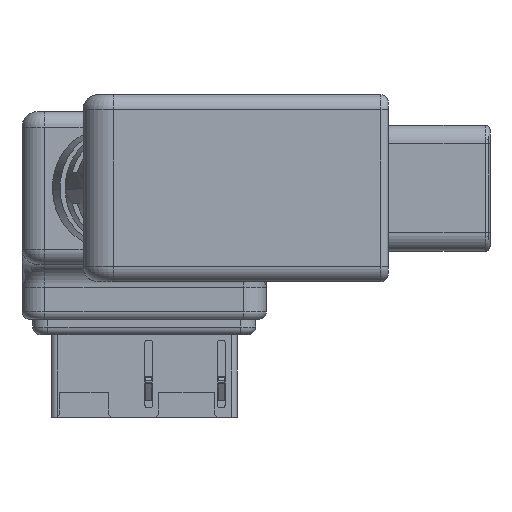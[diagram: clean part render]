
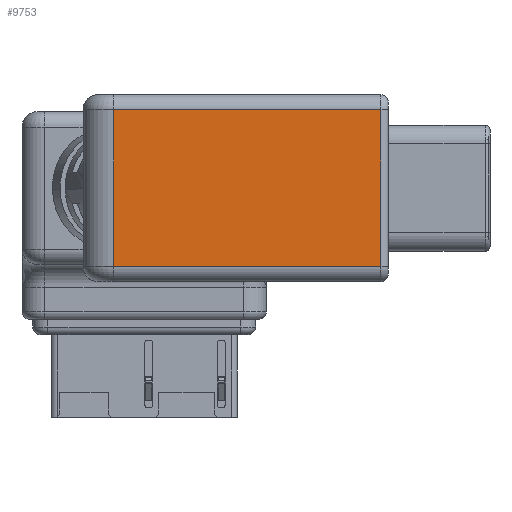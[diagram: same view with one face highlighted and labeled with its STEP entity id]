
A CAD part, front view. The second image highlights one B-rep face of the part: STEP entity #9753.
In plain terms, the highlighted planar face has unit normal (0, -1, 0).
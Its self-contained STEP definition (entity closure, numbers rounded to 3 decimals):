
#229 = VECTOR ( 'NONE', #5488, 1000. ) ;
#339 = CARTESIAN_POINT ( 'NONE',  ( 16., -117.9, 5.125 ) ) ;
#904 = EDGE_CURVE ( 'NONE', #9708, #16086, #9618, .T. ) ;
#1450 = PLANE ( 'NONE',  #9997 ) ;
#2273 = EDGE_CURVE ( 'NONE', #6887, #4317, #8235, .T. ) ;
#4207 = DIRECTION ( 'NONE',  ( 1., 0., 0. ) ) ;
#4317 = VERTEX_POINT ( 'NONE', #16345 ) ;
#5078 = LINE ( 'NONE', #14272, #10961 ) ;
#5488 = DIRECTION ( 'NONE',  ( 1., 0., 0. ) ) ;
#5787 = CARTESIAN_POINT ( 'NONE',  ( -2., -117.9, -5.125 ) ) ;
#6544 = ORIENTED_EDGE ( 'NONE', *, *, #7983, .F. ) ;
#6688 = DIRECTION ( 'NONE',  ( 0., 1., 0. ) ) ;
#6887 = VERTEX_POINT ( 'NONE', #5787 ) ;
#7228 = CARTESIAN_POINT ( 'NONE',  ( 15.5, -117.9, -6.125 ) ) ;
#7592 = VECTOR ( 'NONE', #13491, 1000. ) ;
#7983 = EDGE_CURVE ( 'NONE', #6887, #16086, #5078, .T. ) ;
#8164 = CARTESIAN_POINT ( 'NONE',  ( 16., -117.9, -6.125 ) ) ;
#8235 = LINE ( 'NONE', #9344, #229 ) ;
#9048 = ORIENTED_EDGE ( 'NONE', *, *, #2273, .T. ) ;
#9344 = CARTESIAN_POINT ( 'NONE',  ( 16., -117.9, -5.125 ) ) ;
#9618 = LINE ( 'NONE', #339, #7592 ) ;
#9708 = VERTEX_POINT ( 'NONE', #11765 ) ;
#9753 = ADVANCED_FACE ( 'NONE', ( #13138 ), #1450, .F. ) ;
#9997 = AXIS2_PLACEMENT_3D ( 'NONE', #8164, #6688, #4207 ) ;
#9999 = ORIENTED_EDGE ( 'NONE', *, *, #904, .T. ) ;
#10629 = EDGE_LOOP ( 'NONE', ( #9048, #16807, #9999, #6544 ) ) ;
#10961 = VECTOR ( 'NONE', #14191, 1000. ) ;
#11765 = CARTESIAN_POINT ( 'NONE',  ( 15.5, -117.9, 5.125 ) ) ;
#12044 = EDGE_CURVE ( 'NONE', #4317, #9708, #16424, .T. ) ;
#13138 = FACE_OUTER_BOUND ( 'NONE', #10629, .T. ) ;
#13491 = DIRECTION ( 'NONE',  ( -1., 0., 0. ) ) ;
#13852 = DIRECTION ( 'NONE',  ( 0., 0., 1. ) ) ;
#14191 = DIRECTION ( 'NONE',  ( 0., 0., 1. ) ) ;
#14272 = CARTESIAN_POINT ( 'NONE',  ( -2., -117.9, -6.125 ) ) ;
#15306 = CARTESIAN_POINT ( 'NONE',  ( -2., -117.9, 5.125 ) ) ;
#15511 = VECTOR ( 'NONE', #13852, 1000. ) ;
#16086 = VERTEX_POINT ( 'NONE', #15306 ) ;
#16345 = CARTESIAN_POINT ( 'NONE',  ( 15.5, -117.9, -5.125 ) ) ;
#16424 = LINE ( 'NONE', #7228, #15511 ) ;
#16807 = ORIENTED_EDGE ( 'NONE', *, *, #12044, .T. ) ;
